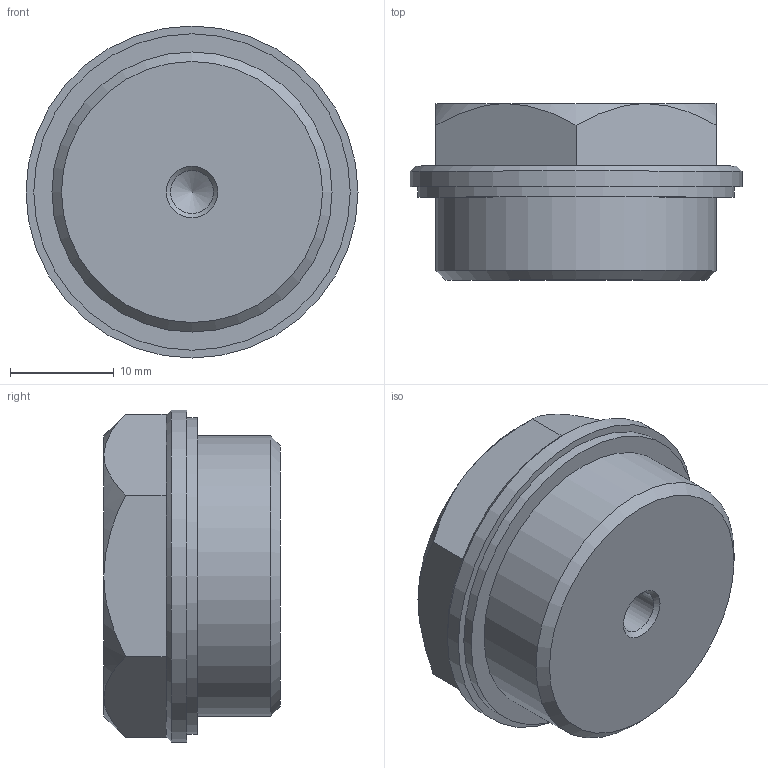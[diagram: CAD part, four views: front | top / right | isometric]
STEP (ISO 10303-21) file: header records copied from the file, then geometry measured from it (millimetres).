
FILE_DESCRIPTION( ( 'STEP AP203' ), '1' );
FILE_NAME( 'C:/Temp/Ganter_Step_05_03_2020/data/3_5/gn742/gn742_1/Threaded plug GN 742-32-M27x1,5-OS-1.stp', '2020-03-12T13:39:13', ( 'License CC BY-ND 4.0' ), ( 'CADENAS' ), ' ', 'PARTsolutions', ' ' );
FILE_SCHEMA( ( 'CONFIG_CONTROL_DESIGN' ) );
Length unit declared in the file: millimetre
Products named in the file (1): _Threaded plug GN 742-32-M27x1,5-OS-1
Bounding box: 32 x 17 x 32 mm (x, y, z)
Volume: 10441.9 mm3; surface area: 3193.9 mm2
Topology: 1 solids, 1 shells, 36 faces, 74 edges, 42 vertices
Faces by surface type: plane 22, cone 10, cylinder 4
Full cylindrical faces by diameter (mm): 4.134 x1, 27 x1, 30.5 x1, 32 x1
Entity records: 980 total; most frequent: CARTESIAN_POINT 226, DIRECTION 154, ORIENTED_EDGE 128, AXIS2_PLACEMENT_3D 65, EDGE_CURVE 64, EDGE_LOOP 46, VERTEX_POINT 41, FACE_OUTER_BOUND 40
